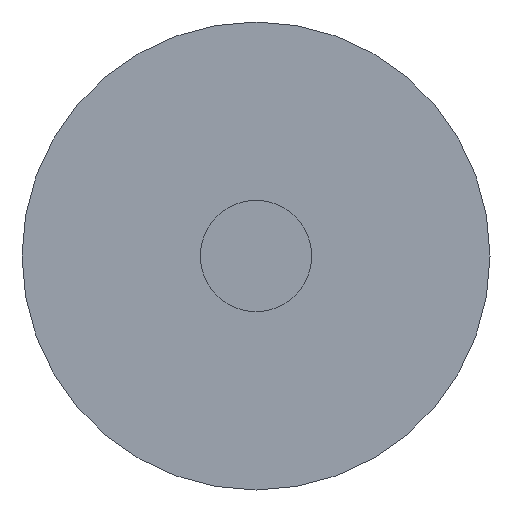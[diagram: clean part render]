
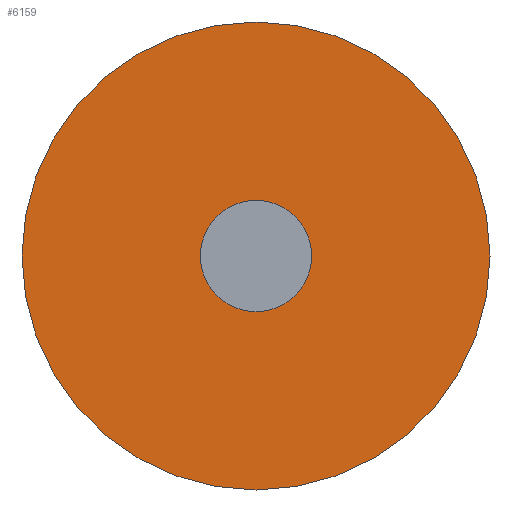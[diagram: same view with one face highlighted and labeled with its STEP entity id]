
A CAD part, front view. The second image highlights one B-rep face of the part: STEP entity #6159.
In plain terms, the highlighted planar face has unit normal (0, -1, 0).
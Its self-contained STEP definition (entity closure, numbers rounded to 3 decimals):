
#1696=PLANE('',#6541);
#1809=VERTEX_POINT('',#7442);
#1838=VERTEX_POINT('',#7530);
#2444=CIRCLE('',#6505,1.25);
#2463=CIRCLE('',#6542,5.25);
#2492=EDGE_CURVE('',#1809,#1809,#2444,.T.);
#2533=EDGE_CURVE('',#1838,#1838,#2463,.T.);
#3508=ORIENTED_EDGE('',*,*,#2492,.T.);
#3509=ORIENTED_EDGE('',*,*,#2533,.F.);
#5322=EDGE_LOOP('',(#3508));
#5323=EDGE_LOOP('',(#3509));
#5743=FACE_BOUND('',#5322,.T.);
#5744=FACE_BOUND('',#5323,.T.);
#6159=ADVANCED_FACE('',(#5743,#5744),#1696,.T.);
#6505=AXIS2_PLACEMENT_3D('',#7441,#6701,#6702);
#6541=AXIS2_PLACEMENT_3D('',#7528,#6784,$);
#6542=AXIS2_PLACEMENT_3D('',#7529,#6785,#6786);
#6701=DIRECTION('',(0.,1.,0.));
#6702=DIRECTION('',(0.,0.,-1.25));
#6784=DIRECTION('',(0.,-1.,0.));
#6785=DIRECTION('',(0.,1.,0.));
#6786=DIRECTION('',(5.25,0.,0.));
#7441=CARTESIAN_POINT('',(0.,0.,0.));
#7442=CARTESIAN_POINT('',(0.,0.,-1.25));
#7528=CARTESIAN_POINT('',(2.375,0.,0.));
#7529=CARTESIAN_POINT('',(0.,0.,0.));
#7530=CARTESIAN_POINT('',(5.25,0.,0.));
